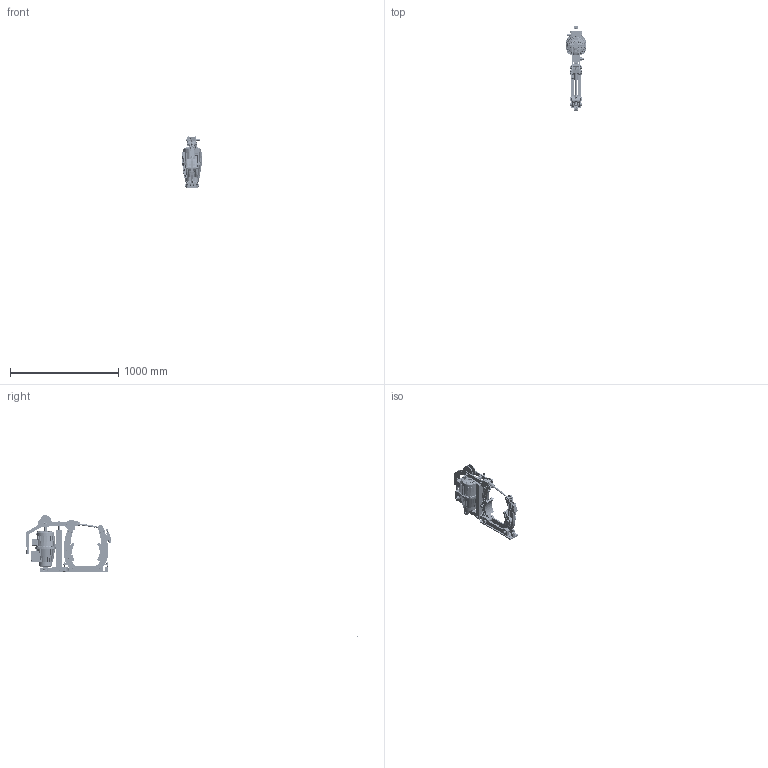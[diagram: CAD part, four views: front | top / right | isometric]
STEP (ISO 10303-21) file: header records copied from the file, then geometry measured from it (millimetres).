
FILE_DESCRIPTION((''),'2;1');
FILE_NAME('4459_254_506_E00002','2018-01-31T',('VORO'),(''),'CREO PARAMETRIC BY PTC INC, 2017170','CREO PARAMETRIC BY PTC INC, 2017170','');
FILE_SCHEMA(('CONFIG_CONTROL_DESIGN'));
Products named in the file (1): 4459_254_506_E00002
Bounding box: 192 x 3061.31 x 1122.02 mm (x, y, z)
Surface area: 1676131 mm2 (no closed solid volume)
Topology: 0 solids, 4835 shells, 5372 faces, 33344 edges, 32186 vertices
Faces by surface type: plane 2603, cylinder 1852, cone 680, torus 223, bspline 14
Entity records: 559909 total; most frequent: CARTESIAN_POINT 161486, PRESENTATION_STYLE_ASSIGNMENT 43485, DIRECTION 39286, STYLED_ITEM 38113, ORIENTED_EDGE 34398, CURVE_STYLE 33278, EDGE_CURVE 33278, VERTEX_POINT 32166
